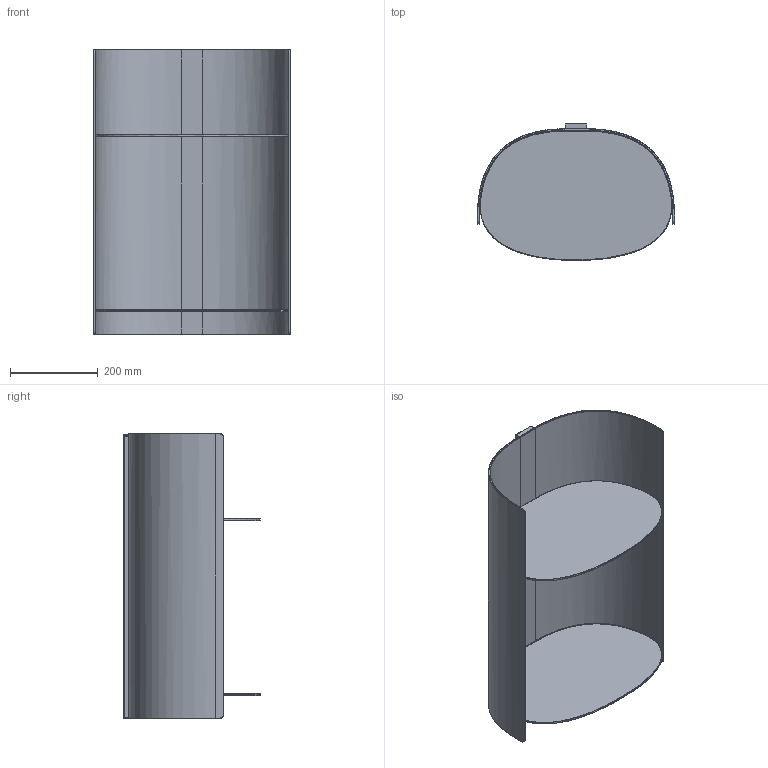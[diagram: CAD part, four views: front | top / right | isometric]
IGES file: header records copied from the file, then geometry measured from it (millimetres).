
Global section: file name: /Volumes/Clients/Pulpo/20210922_CASACOMO_Shelf/Export/202207_Pulpo_Comoshelf_small.igs; native system: Rhinoceros ( Jun 14 2022 ); preprocessor: Trout Lake IGES 012 Jun 14 2022; date: 220705.075714; units: millimetre
Bounding box: 450 x 311.97 x 650 mm (x, y, z)
Surface area: 1481797.8 mm2 (no closed solid volume)
Topology: 0 solids, 0 shells, 127 faces, 1258 edges, 1258 vertices
Faces by surface type: bspline 127
